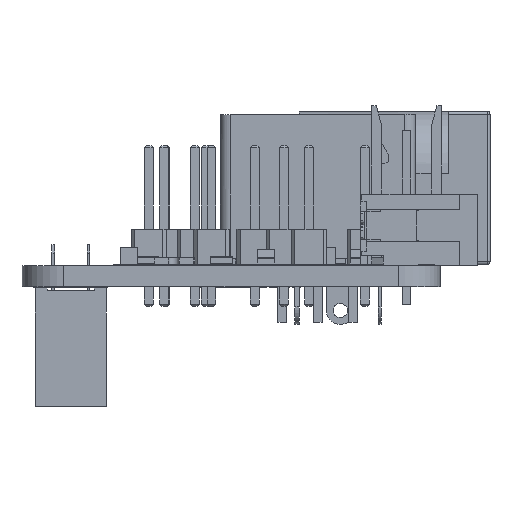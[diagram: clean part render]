
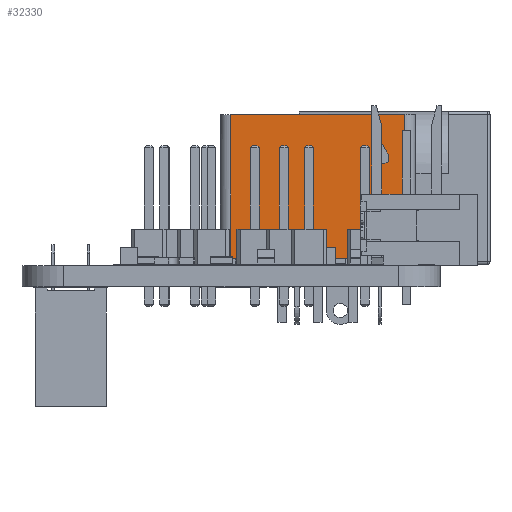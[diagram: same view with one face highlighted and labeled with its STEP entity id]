
A CAD part, left-side view. The second image highlights one B-rep face of the part: STEP entity #32330.
In plain terms, the highlighted planar face has unit normal (-1, 0, 0) as drawn and (0, 1, 0) by its records, which use the part's own axes.
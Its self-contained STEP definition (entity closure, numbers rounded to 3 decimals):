
#32330 = ADVANCED_FACE('',(#32331),#32365,.F.);
#32331 = FACE_BOUND('',#32332,.T.);
#32332 = EDGE_LOOP('',(#32333,#32343,#32351,#32359));
#32333 = ORIENTED_EDGE('',*,*,#32334,.T.);
#32334 = EDGE_CURVE('',#32335,#32337,#32339,.T.);
#32335 = VERTEX_POINT('',#32336);
#32336 = CARTESIAN_POINT('',(13.25,7.6,0.));
#32337 = VERTEX_POINT('',#32338);
#32338 = CARTESIAN_POINT('',(0.75,7.6,0.));
#32339 = LINE('',#32340,#32341);
#32340 = CARTESIAN_POINT('',(14.,7.6,0.));
#32341 = VECTOR('',#32342,1.);
#32342 = DIRECTION('',(-1.,0.,0.));
#32343 = ORIENTED_EDGE('',*,*,#32344,.F.);
#32344 = EDGE_CURVE('',#32345,#32337,#32347,.T.);
#32345 = VERTEX_POINT('',#32346);
#32346 = CARTESIAN_POINT('',(0.75,7.6,10.3));
#32347 = LINE('',#32348,#32349);
#32348 = CARTESIAN_POINT('',(0.75,7.6,10.8));
#32349 = VECTOR('',#32350,1.);
#32350 = DIRECTION('',(0.,0.,-1.));
#32351 = ORIENTED_EDGE('',*,*,#32352,.T.);
#32352 = EDGE_CURVE('',#32345,#32353,#32355,.T.);
#32353 = VERTEX_POINT('',#32354);
#32354 = CARTESIAN_POINT('',(13.25,7.6,10.3));
#32355 = LINE('',#32356,#32357);
#32356 = CARTESIAN_POINT('',(0.5,7.6,10.3));
#32357 = VECTOR('',#32358,1.);
#32358 = DIRECTION('',(1.,0.,0.));
#32359 = ORIENTED_EDGE('',*,*,#32360,.T.);
#32360 = EDGE_CURVE('',#32353,#32335,#32361,.T.);
#32361 = LINE('',#32362,#32363);
#32362 = CARTESIAN_POINT('',(13.25,7.6,10.8));
#32363 = VECTOR('',#32364,1.);
#32364 = DIRECTION('',(0.,0.,-1.));
#32365 = PLANE('',#32366);
#32366 = AXIS2_PLACEMENT_3D('',#32367,#32368,#32369);
#32367 = CARTESIAN_POINT('',(14.,7.6,10.8));
#32368 = DIRECTION('',(0.,-1.,0.));
#32369 = DIRECTION('',(1.,0.,0.));
